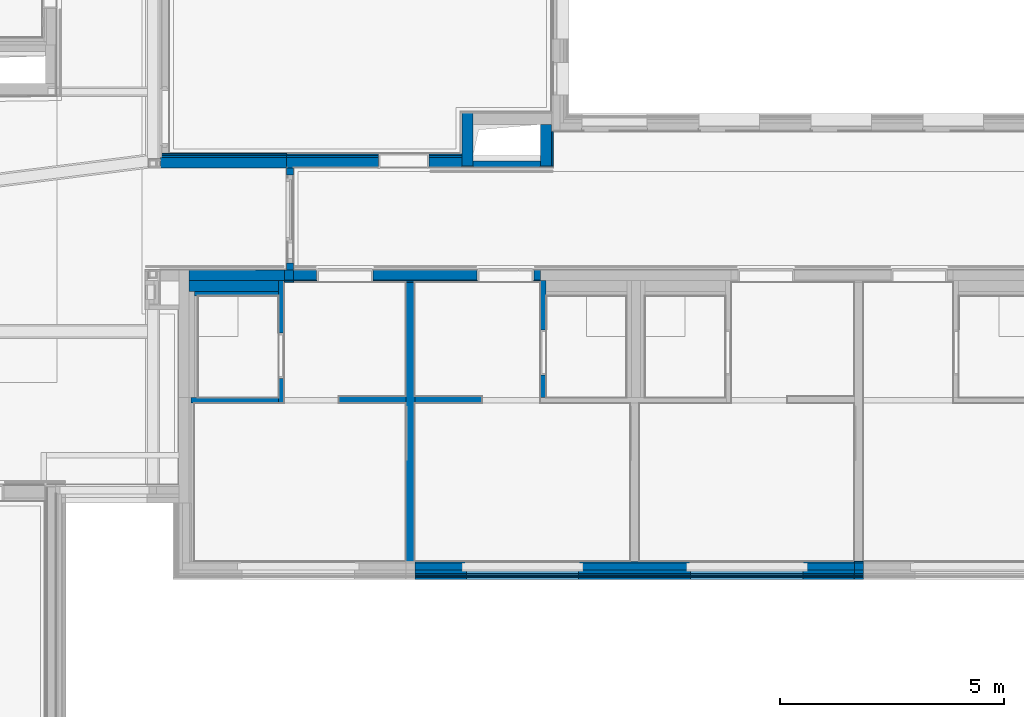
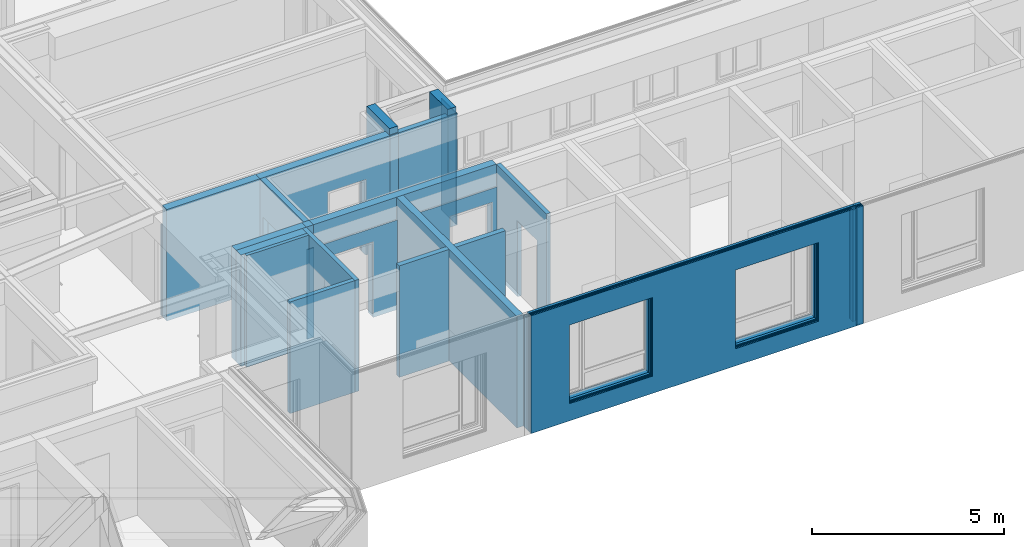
# One storey, part 42 of 222: 40 walls, 24 openings.
"""IFC4 building model written with IfcOpenShell, lengths in metres."""

from ifc_helpers import new_model, entity, si_unit, converted_unit, derived_unit, frame, frame_2d, origin, origin_with_axes, place, context, subcontext, project, spatial, polyline, rectangle, outline, extrude, clip, bounded_halfspace, material, element, save


model = new_model("IFC4")

# Units and contexts
model_context = context("Model", 3, precision=1e-05, world=origin())
body_context = subcontext(model_context, "Body", "Model", "MODEL_VIEW")
ifc_project = project(units=[si_unit("LENGTHUNIT", "METRE"), si_unit("AREAUNIT", "SQUARE_METRE"), si_unit("VOLUMEUNIT", "CUBIC_METRE"), si_unit("MASSUNIT", "GRAM", prefix="KILO"), converted_unit("PLANEANGLEUNIT", "DEGREE", entity("IfcPlaneAngleMeasure", 0.0174532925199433), si_unit("PLANEANGLEUNIT", "RADIAN"), dimensions=[0, 0, 0, 0, 0, 0, 0]), derived_unit("THERMALTRANSMITTANCEUNIT", [(si_unit("POWERUNIT", "WATT"), 1), (si_unit("THERMODYNAMICTEMPERATUREUNIT", "KELVIN"), -1), (si_unit("LENGTHUNIT", "METRE"), -2)]), derived_unit("VOLUMETRICFLOWRATEUNIT", [(si_unit("LENGTHUNIT", "METRE"), 3), (converted_unit("TIMEUNIT", "hour", entity("IfcTimeMeasure", 3600.0), si_unit("TIMEUNIT", "SECOND"), dimensions=[0, 0, 1, 0, 0, 0, 0]), -1), (si_unit("LENGTHUNIT", "METRE"), -1)])], contexts=[model_context])

# Site, building, storey
site_placement = place(None, origin())
site = spatial("IfcSite", under=ifc_project, at=site_placement, Name="Psychiatrie Neubau Wunstorf", CompositionType="ELEMENT")
building_placement = place(site_placement, origin())
building = spatial("IfcBuilding", under=site, at=building_placement, Name="Neubau H2 Stationsgebäude", CompositionType="ELEMENT")
storey_placement = place(building_placement, frame((0.0, 0.0, 3.6)))
storey = spatial("IfcBuildingStorey", under=building, at=storey_placement, Name="H2 Ebene +1", CompositionType="ELEMENT", Elevation=3.6)

# Walls
ifc_material_1 = material(Name="WA-LB")
wall_1_placement = place(storey_placement, frame((86.1, -1.16399999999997, 0.0), z_axis=(0.0, 0.0, 1.0), x_axis=(-1.0, 0.0, 0.0)))
element("IfcWall", 1, at=wall_1_placement, inside=storey, material=ifc_material_1, Name="2x Gipsfaserplatte", context=body_context, shape_type="SweptSolid", body=[
    extrude(rectangle(XDim=0.2, YDim=0.036, at=frame_2d((0.1, 0.018), x_axis=(1.0, 0.0))), origin_with_axes(), (0.0, 0.0, 1.0), 3.55),
])
ifc_material_2 = material(Name="WA-HD")
wall_2_placement = place(storey_placement, frame((86.1, -1.19999999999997, 0.0), z_axis=(0.0, 0.0, 1.0), x_axis=(-1.0, 0.0, 0.0)))
element("IfcWall", 2, at=wall_2_placement, inside=storey, material=ifc_material_2, Name="Holzständer + Zwischendämmung", context=body_context, shape_type="SweptSolid", body=[
    extrude(rectangle(XDim=0.2, YDim=0.16, at=frame_2d((0.1, 0.08), x_axis=(1.0, 0.0))), origin_with_axes(), (0.0, 0.0, 1.0), 3.55),
])
ifc_material_3 = material(Name="WA-DL")
wall_3_placement = place(storey_placement, frame((86.1, -1.35999999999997, 0.0), z_axis=(0.0, 0.0, 1.0), x_axis=(-1.0, 0.0, 0.0)))
element("IfcWall", 3, at=wall_3_placement, inside=storey, material=ifc_material_3, Name="Staffel + Zwischendämmung", context=body_context, shape_type="SweptSolid", body=[
    extrude(rectangle(XDim=0.2, YDim=0.08, at=frame_2d((0.1, 0.04), x_axis=(1.0, 0.0))), origin_with_axes(), (0.0, 0.0, 1.0), 3.75),
])
ifc_material_4 = material(Name="WA-LB")
wall_4_placement = place(storey_placement, frame((86.1, -1.43999999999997, 0.0), z_axis=(0.0, 0.0, 1.0), x_axis=(-1.0, 0.0, 0.0)))
element("IfcWall", 4, at=wall_4_placement, inside=storey, material=ifc_material_4, context=body_context, shape_type="SweptSolid", body=[
    extrude(rectangle(XDim=0.2, YDim=0.036, at=frame_2d((0.1, 0.018), x_axis=(1.0, 0.0))), origin_with_axes(), (0.0, 0.0, 1.0), 3.75),
])
ifc_material_5 = material(Name="WA-KL")
wall_5_placement = place(storey_placement, frame((86.1, -1.47599999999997, 0.0), z_axis=(0.0, 0.0, 1.0), x_axis=(-1.0, 0.0, 0.0)))
element("IfcWall", 5, at=wall_5_placement, inside=storey, material=ifc_material_5, Name="Konterlattung", context=body_context, shape_type="SweptSolid", body=[
    extrude(rectangle(XDim=0.2, YDim=0.024, at=frame_2d((0.1, 0.012), x_axis=(1.0, 0.0))), origin_with_axes(), (0.0, 0.0, 1.0), 3.75),
])
ifc_material_6 = material(Name="WA-TL")
wall_6_placement = place(storey_placement, frame((86.1, -1.49999999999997, 0.0), z_axis=(0.0, 0.0, 1.0), x_axis=(-1.0, 0.0, 0.0)))
element("IfcWall", 6, at=wall_6_placement, inside=storey, material=ifc_material_6, Name="Traglattung", context=body_context, shape_type="SweptSolid", body=[
    extrude(rectangle(XDim=0.2, YDim=0.024, at=frame_2d((0.1, 0.012), x_axis=(1.0, 0.0))), origin_with_axes(), (0.0, 0.0, 1.0), 3.75),
])
ifc_material_7 = material(Name="WA-HS")
wall_7_placement = place(storey_placement, frame((86.1, -1.52399999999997, 0.0), z_axis=(0.0, 0.0, 1.0), x_axis=(-1.0, 0.0, 0.0)))
element("IfcWall", 7, at=wall_7_placement, inside=storey, material=ifc_material_7, Name="Holzschindel", context=body_context, shape_type="SweptSolid", body=[
    extrude(rectangle(XDim=0.2, YDim=0.042, at=frame_2d((0.1, 0.021), x_axis=(1.0, 0.0))), origin_with_axes(), (0.0, 0.0, 1.0), 3.75),
])

# Wall, openings
ifc_material_8 = material(Name="WA-LB")
wall_8_placement = place(storey_placement, frame((85.9, -1.16399999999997, 0.0), z_axis=(0.0, 0.0, 1.0), x_axis=(-1.0, 7.42444654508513e-16, 0.0)))
wall_8 = element("IfcWall", 8, at=wall_8_placement, inside=storey, material=ifc_material_8, context=body_context, shape_type="SweptSolid", body=[
    extrude(rectangle(XDim=9.8, YDim=0.036, at=frame_2d((4.9, 0.018), x_axis=(1.0, 0.0))), origin_with_axes(), (0.0, 0.0, 1.0), 3.55),
])
opening_1_placement = place(wall_8_placement, frame((1.14999995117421, 0.0, 0.55), z_axis=(0.0, 1.0, 0.0), x_axis=(0.0, 0.0, 1.0)))
element("IfcOpeningElement", 9, at=opening_1_placement, cuts=wall_8, Name="Fensteröffnung", ObjectType="Opening", context=body_context, shape_type="SweptSolid", body=[
    extrude(outline(polyline([(2.5, 2.5), (2.5, 0.0), (0.0, 0.0), (0.0, 2.5), (2.5, 2.5)])), origin_with_axes(), (0.0, 0.0, 1.0), 0.036),
])
opening_2_placement = place(wall_8_placement, frame((6.14999995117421, 0.0, 0.55), z_axis=(0.0, 1.0, 0.0), x_axis=(0.0, 0.0, 1.0)))
element("IfcOpeningElement", 10, at=opening_2_placement, cuts=wall_8, Name="Fensteröffnung", ObjectType="Opening", context=body_context, shape_type="SweptSolid", body=[
    extrude(outline(polyline([(2.5, 2.5), (2.5, 0.0), (0.0, 0.0), (0.0, 2.5), (2.5, 2.5)])), origin_with_axes(), (0.0, 0.0, 1.0), 0.036),
])

ifc_material_9 = material(Name="WA-HD")
wall_9_placement = place(storey_placement, frame((85.9, -1.19999999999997, 0.0), z_axis=(0.0, 0.0, 1.0), x_axis=(-1.0, 7.42444654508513e-16, 0.0)))
wall_9 = element("IfcWall", 11, at=wall_9_placement, inside=storey, material=ifc_material_9, context=body_context, shape_type="Clipping", body=[
    clip(clip(extrude(rectangle(XDim=9.8, YDim=0.16, at=frame_2d((4.9, 0.08), x_axis=(1.0, 0.0))), origin_with_axes(), (0.0, 0.0, 1.0), 3.55), bounded_halfspace(frame((7.39999996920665, 0.0799999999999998, 0.26), z_axis=(0.0, 0.0, 1.0), x_axis=(1.0, -1.5467586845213e-17, 0.0)), True, origin_with_axes(), polyline([(6.04999995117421, 0.0), (8.74999998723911, 0.0), (8.74999998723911, 0.16), (6.04999995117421, 0.16), (6.04999995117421, 0.0)]))), bounded_halfspace(frame((2.39999996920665, 0.0800000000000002, 0.26), z_axis=(0.0, 0.0, 1.0), x_axis=(1.0, -1.54675868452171e-17, 0.0)), True, origin_with_axes(), polyline([(1.04999995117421, 0.0), (3.74999998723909, 0.0), (3.74999998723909, 0.16), (1.04999995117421, 0.16), (1.04999995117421, 0.0)]))),
])
opening_3_placement = place(wall_9_placement, frame((6.14999995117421, 0.0, 0.55), z_axis=(0.0, 1.0, 0.0), x_axis=(0.0, 0.0, 1.0)))
element("IfcOpeningElement", 12, at=opening_3_placement, cuts=wall_9, Name="Fensteröffnung", ObjectType="Opening", context=body_context, shape_type="SweptSolid", body=[
    extrude(outline(polyline([(2.5, 2.5), (2.5, 0.0), (0.0, 0.0), (0.0, 2.5), (2.5, 2.5)])), origin_with_axes(), (0.0, 0.0, 1.0), 0.16),
])
opening_4_placement = place(wall_9_placement, frame((1.14999995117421, 0.0, 0.55), z_axis=(-1.4210854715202e-15, 1.0, 0.0), x_axis=(0.0, 0.0, 1.0)))
element("IfcOpeningElement", 13, at=opening_4_placement, cuts=wall_9, Name="Fensteröffnung", ObjectType="Opening", context=body_context, shape_type="SweptSolid", body=[
    extrude(outline(polyline([(2.5, 2.5), (2.5, 0.0), (0.0, 0.0), (0.0, 2.5), (2.5, 2.5)])), origin_with_axes(), (0.0, 0.0, 1.0), 0.16),
])

ifc_material_10 = material(Name="WA-DL")
wall_10_placement = place(storey_placement, frame((85.9, -1.35999999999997, 0.0), z_axis=(0.0, 0.0, 1.0), x_axis=(-1.0, 7.42444654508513e-16, 0.0)))
wall_10 = element("IfcWall", 14, at=wall_10_placement, inside=storey, material=ifc_material_10, context=body_context, shape_type="SweptSolid", body=[
    extrude(rectangle(XDim=9.8, YDim=0.08, at=frame_2d((4.9, 0.04), x_axis=(1.0, 0.0))), origin_with_axes(), (0.0, 0.0, 1.0), 3.75),
])
opening_5_placement = place(wall_10_placement, frame((6.14999995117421, 0.0, 0.55), z_axis=(0.0, 1.0, 0.0), x_axis=(0.0, 0.0, 1.0)))
element("IfcOpeningElement", 15, at=opening_5_placement, cuts=wall_10, Name="Fensteröffnung", ObjectType="Opening", context=body_context, shape_type="SweptSolid", body=[
    extrude(outline(polyline([(2.5, 2.5), (2.5, 0.0), (0.0, 0.0), (0.0, 2.5), (2.5, 2.5)])), origin_with_axes(), (0.0, 0.0, 1.0), 0.08),
])
opening_6_placement = place(wall_10_placement, frame((1.14999995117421, 0.0, 0.55), z_axis=(0.0, 1.0, 0.0), x_axis=(0.0, 0.0, 1.0)))
element("IfcOpeningElement", 16, at=opening_6_placement, cuts=wall_10, Name="Fensteröffnung", ObjectType="Opening", context=body_context, shape_type="SweptSolid", body=[
    extrude(outline(polyline([(2.5, 2.5), (2.5, 0.0), (0.0, 0.0), (0.0, 2.5), (2.5, 2.5)])), origin_with_axes(), (0.0, 0.0, 1.0), 0.08),
])

ifc_material_11 = material(Name="WA-LB")
wall_11_placement = place(storey_placement, frame((85.9, -1.43999999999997, 0.0), z_axis=(0.0, 0.0, 1.0), x_axis=(-1.0, 7.42444654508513e-16, 0.0)))
wall_11 = element("IfcWall", 17, at=wall_11_placement, inside=storey, material=ifc_material_11, context=body_context, shape_type="SweptSolid", body=[
    extrude(rectangle(XDim=9.8, YDim=0.036, at=frame_2d((4.9, 0.018), x_axis=(1.0, 0.0))), origin_with_axes(), (0.0, 0.0, 1.0), 3.75),
])
opening_7_placement = place(wall_11_placement, frame((6.14999995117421, 0.0, 0.55), z_axis=(0.0, 1.0, 0.0), x_axis=(0.0, 0.0, 1.0)))
element("IfcOpeningElement", 18, at=opening_7_placement, cuts=wall_11, Name="Fensteröffnung", ObjectType="Opening", context=body_context, shape_type="SweptSolid", body=[
    extrude(outline(polyline([(2.5, 2.5), (2.5, 0.0), (0.0, 0.0), (0.0, 2.5), (2.5, 2.5)])), origin_with_axes(), (0.0, 0.0, 1.0), 0.036),
])
opening_8_placement = place(wall_11_placement, frame((1.14999995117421, 0.0, 0.55), z_axis=(0.0, 1.0, 0.0), x_axis=(0.0, 0.0, 1.0)))
element("IfcOpeningElement", 19, at=opening_8_placement, cuts=wall_11, Name="Fensteröffnung", ObjectType="Opening", context=body_context, shape_type="SweptSolid", body=[
    extrude(outline(polyline([(2.5, 2.5), (2.5, 0.0), (0.0, 0.0), (0.0, 2.5), (2.5, 2.5)])), origin_with_axes(), (0.0, 0.0, 1.0), 0.036),
])

ifc_material_12 = material(Name="WA-KL")
wall_12_placement = place(storey_placement, frame((85.9, -1.47599999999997, 0.0), z_axis=(0.0, 0.0, 1.0), x_axis=(-1.0, 7.42444654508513e-16, 0.0)))
wall_12 = element("IfcWall", 20, at=wall_12_placement, inside=storey, material=ifc_material_12, context=body_context, shape_type="SweptSolid", body=[
    extrude(rectangle(XDim=9.8, YDim=0.024, at=frame_2d((4.9, 0.012), x_axis=(1.0, 0.0))), origin_with_axes(), (0.0, 0.0, 1.0), 3.75),
])
opening_9_placement = place(wall_12_placement, frame((6.14999995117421, 0.0, 0.55), z_axis=(0.0, 1.0, 0.0), x_axis=(0.0, 0.0, 1.0)))
element("IfcOpeningElement", 21, at=opening_9_placement, cuts=wall_12, Name="Fensteröffnung", ObjectType="Opening", context=body_context, shape_type="SweptSolid", body=[
    extrude(outline(polyline([(2.5, 2.5), (2.5, 0.0), (0.0, 0.0), (0.0, 2.5), (2.5, 2.5)])), origin_with_axes(), (0.0, 0.0, 1.0), 0.024),
])
opening_10_placement = place(wall_12_placement, frame((1.14999995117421, 0.0, 0.55), z_axis=(0.0, 1.0, 0.0), x_axis=(0.0, 0.0, 1.0)))
element("IfcOpeningElement", 22, at=opening_10_placement, cuts=wall_12, Name="Fensteröffnung", ObjectType="Opening", context=body_context, shape_type="SweptSolid", body=[
    extrude(outline(polyline([(2.5, 2.5), (2.5, 0.0), (0.0, 0.0), (0.0, 2.5), (2.5, 2.5)])), origin_with_axes(), (0.0, 0.0, 1.0), 0.024),
])

ifc_material_13 = material(Name="WA-TL")
wall_13_placement = place(storey_placement, frame((85.9, -1.49999999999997, 0.0), z_axis=(0.0, 0.0, 1.0), x_axis=(-1.0, 7.42444654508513e-16, 0.0)))
wall_13 = element("IfcWall", 23, at=wall_13_placement, inside=storey, material=ifc_material_13, context=body_context, shape_type="SweptSolid", body=[
    extrude(rectangle(XDim=9.8, YDim=0.024, at=frame_2d((4.9, 0.012), x_axis=(1.0, 0.0))), origin_with_axes(), (0.0, 0.0, 1.0), 3.75),
])
opening_11_placement = place(wall_13_placement, frame((1.14999995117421, 0.0, 0.55), z_axis=(0.0, 1.0, 0.0), x_axis=(0.0, 0.0, 1.0)))
element("IfcOpeningElement", 24, at=opening_11_placement, cuts=wall_13, Name="Fensteröffnung", ObjectType="Opening", context=body_context, shape_type="SweptSolid", body=[
    extrude(outline(polyline([(2.5, 2.5), (2.5, 0.0), (0.0, 0.0), (0.0, 2.5), (2.5, 2.5)])), origin_with_axes(), (0.0, 0.0, 1.0), 0.024),
])
opening_12_placement = place(wall_13_placement, frame((6.14999995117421, 0.0, 0.55), z_axis=(0.0, 1.0, 0.0), x_axis=(0.0, 0.0, 1.0)))
element("IfcOpeningElement", 25, at=opening_12_placement, cuts=wall_13, Name="Fensteröffnung", ObjectType="Opening", context=body_context, shape_type="SweptSolid", body=[
    extrude(outline(polyline([(2.5, 2.5), (2.5, 0.0), (0.0, 0.0), (0.0, 2.5), (2.5, 2.5)])), origin_with_axes(), (0.0, 0.0, 1.0), 0.024),
])

ifc_material_14 = material(Name="WA-HS")
wall_14_placement = place(storey_placement, frame((85.9, -1.52399999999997, 0.0), z_axis=(0.0, 0.0, 1.0), x_axis=(-1.0, 7.42444654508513e-16, 0.0)))
wall_14 = element("IfcWall", 26, at=wall_14_placement, inside=storey, material=ifc_material_14, context=body_context, shape_type="SweptSolid", body=[
    extrude(rectangle(XDim=9.8, YDim=0.042, at=frame_2d((4.9, 0.021), x_axis=(1.0, 0.0))), origin_with_axes(), (0.0, 0.0, 1.0), 3.75),
])
opening_13_placement = place(wall_14_placement, frame((6.14999995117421, 0.0, 0.55), z_axis=(0.0, 1.0, 0.0), x_axis=(0.0, 0.0, 1.0)))
element("IfcOpeningElement", 27, at=opening_13_placement, cuts=wall_14, Name="Fensteröffnung", ObjectType="Opening", context=body_context, shape_type="SweptSolid", body=[
    extrude(outline(polyline([(2.5, 2.5), (2.5, 0.0), (0.0, 0.0), (0.0, 2.5), (2.5, 2.5)])), origin_with_axes(), (0.0, 0.0, 1.0), 0.042),
])
opening_14_placement = place(wall_14_placement, frame((1.14999995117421, 0.0, 0.55), z_axis=(0.0, 1.0, 0.0), x_axis=(0.0, 0.0, 1.0)))
element("IfcOpeningElement", 28, at=opening_14_placement, cuts=wall_14, Name="Fensteröffnung", ObjectType="Opening", context=body_context, shape_type="SweptSolid", body=[
    extrude(outline(polyline([(2.5, 2.5), (2.5, 0.0), (0.0, 0.0), (0.0, 2.5), (2.5, 2.5)])), origin_with_axes(), (0.0, 0.0, 1.0), 0.042),
])

# Wall, opening
ifc_material_15 = material(Name="WI-LB")
wall_15_placement = place(storey_placement, frame((78.9, 5.1005, 0.0), z_axis=(0.0, 0.0, 1.0), x_axis=(0.0, -1.0, 0.0)))
wall_15 = element("IfcWall", 29, at=wall_15_placement, inside=storey, material=ifc_material_15, context=body_context, shape_type="SweptSolid", body=[
    extrude(rectangle(XDim=2.61499999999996, YDim=0.125, at=frame_2d((1.30749999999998, 0.0625), x_axis=(1.0, 0.0))), origin_with_axes(), (0.0, 0.0, 1.0), 3.55),
])
opening_15_placement = place(wall_15_placement, frame((2.11499999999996, 0.125, 0.0), z_axis=(0.0, -1.0, 0.0), x_axis=(0.0, 0.0, 1.0)))
element("IfcOpeningElement", 30, at=opening_15_placement, cuts=wall_15, Name="Türöffnung", ObjectType="Opening", context=body_context, shape_type="SweptSolid", body=[
    extrude(outline(polyline([(2.41, 1.01), (2.41, 0.0), (0.0, 0.0), (0.0, 1.01), (2.41, 1.01)])), origin_with_axes(), (0.0, 0.0, 1.0), 0.125),
])

# Walls
ifc_material_16 = material(Name="WI-LB")
wall_16_placement = place(storey_placement, frame((73.0625, 2.48550000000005, 0.0), z_axis=(0.0, 0.0, 1.0), x_axis=(-1.0, -4.41953947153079e-15, 0.0)))
element("IfcWall", 31, at=wall_16_placement, inside=storey, material=ifc_material_16, context=body_context, shape_type="SweptSolid", body=[
    extrude(rectangle(XDim=1.95500000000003, YDim=0.125, at=frame_2d((0.977500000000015, 0.0625), x_axis=(1.0, 0.0))), origin_with_axes(), (0.0, 0.0, 1.0), 3.55),
])
ifc_material_17 = material(Name="WI-LB")
wall_17_placement = place(storey_placement, frame((75.9, 5.10050000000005, 0.0), z_axis=(0.0, 0.0, 1.0), x_axis=(0.0, -1.0, 0.0)))
element("IfcWall", 32, at=wall_17_placement, inside=storey, material=ifc_material_17, context=body_context, shape_type="SweptSolid", body=[
    extrude(rectangle(XDim=6.26450000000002, YDim=0.2, at=frame_2d((3.13225000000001, 0.1), x_axis=(1.0, 0.0))), origin_with_axes(), (0.0, 0.0, 1.0), 3.55),
])
ifc_material_18 = material(Name="WI-LB")
wall_18_placement = place(storey_placement, frame((73.2399999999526, 7.92950000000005, 0.0), z_axis=(0.0, 0.0, 1.0), x_axis=(-1.0, 0.0, 0.0)))
element("IfcWall", 33, at=wall_18_placement, inside=storey, material=ifc_material_18, context=body_context, shape_type="SweptSolid", body=[
    extrude(rectangle(XDim=2.81000000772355, YDim=0.04, at=frame_2d((1.40500000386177, 0.02), x_axis=(1.0, 0.0))), origin_with_axes(), (0.0, 0.0, 1.0), 2.9),
])
ifc_material_19 = material(Name="Installationsraum")
wall_19_placement = place(storey_placement, frame((73.2399999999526, 7.88950000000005, 0.0), z_axis=(0.0, 0.0, 1.0), x_axis=(-1.0, 0.0, 0.0)))
element("IfcWall", 34, at=wall_19_placement, inside=storey, material=ifc_material_19, context=body_context, shape_type="SweptSolid", body=[
    extrude(rectangle(XDim=2.81000000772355, YDim=0.05, at=frame_2d((1.40500000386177, 0.025), x_axis=(1.0, 0.0))), origin_with_axes(), (0.0, 0.0, 1.0), 2.9),
])
ifc_material_20 = material(Name="WI-HW 60")
wall_20_placement = place(storey_placement, frame((73.2399999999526, 7.83950000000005, 0.0), z_axis=(0.0, 0.0, 1.0), x_axis=(-1.0, 0.0, 0.0)))
element("IfcWall", 35, at=wall_20_placement, inside=storey, material=ifc_material_20, context=body_context, shape_type="SweptSolid", body=[
    extrude(rectangle(XDim=2.81000000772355, YDim=0.232, at=frame_2d((1.40500000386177, 0.116), x_axis=(1.0, 0.0))), origin_with_axes(), (0.0, 0.0, 1.0), 3.55),
])
ifc_material_21 = material(Name="WI-STB")
wall_21_placement = place(storey_placement, frame((77.4, 7.63750000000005, 0.0), z_axis=(0.0, 0.0, 1.0), x_axis=(0.0, 1.0, 0.0)))
element("IfcWall", 36, at=wall_21_placement, inside=storey, material=ifc_material_21, context=body_context, shape_type="Clipping", body=[
    clip(extrude(rectangle(XDim=1.1875, YDim=0.25, at=frame_2d((0.59375, 0.125), x_axis=(1.0, 0.0))), origin_with_axes(), (0.0, 0.0, 1.0), 3.75), bounded_halfspace(frame((0.124999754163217, 0.125, 0.1), z_axis=(0.0, 0.0, 1.0), x_axis=(0.0, 1.0, 0.0)), True, origin_with_axes(), polyline([(0.249999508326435, 0.0), (0.249999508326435, 0.25), (0.0, 0.25), (0.0, 0.0), (0.249999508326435, 0.0)]))),
])
ifc_material_22 = material(Name="WI-LB")
wall_22_placement = place(storey_placement, frame((75.9, 2.51050005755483, 0.0), z_axis=(0.0, 0.0, 1.0), x_axis=(-1.0, 0.0, 0.0)))
element("IfcWall", 37, at=wall_22_placement, inside=storey, material=ifc_material_22, context=body_context, shape_type="SweptSolid", body=[
    extrude(rectangle(XDim=1.5, YDim=0.15, at=frame_2d((0.75, 0.075), x_axis=(1.0, 0.0))), origin_with_axes(), (0.0, 0.0, 1.0), 3.55),
])
ifc_material_23 = material(Name="WI-LB")
wall_23_placement = place(storey_placement, frame((77.6, 2.51050000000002, 0.0), z_axis=(0.0, 0.0, 1.0), x_axis=(-1.0, 0.0, 0.0)))
element("IfcWall", 38, at=wall_23_placement, inside=storey, material=ifc_material_23, context=body_context, shape_type="SweptSolid", body=[
    extrude(rectangle(XDim=1.5, YDim=0.15, at=frame_2d((0.75, 0.075), x_axis=(1.0, 0.0))), origin_with_axes(), (0.0, 0.0, 1.0), 3.55),
])
ifc_material_24 = material(Name="WI-LB")
wall_24_placement = place(storey_placement, frame((77.15, 7.60750000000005, 0.0)))
element("IfcWall", 39, at=wall_24_placement, inside=storey, material=ifc_material_24, context=body_context, shape_type="SweptSolid", body=[
    extrude(rectangle(XDim=0.25, YDim=0.0299996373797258, at=frame_2d((0.125, 0.0149998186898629), x_axis=(1.0, 0.0))), origin_with_axes(), (0.0, 0.0, 1.0), 3.55),
])
ifc_material_25 = material(Name="WI-LB")
wall_25_placement = place(storey_placement, frame((78.9, 7.60750000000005, 0.0), z_axis=(0.0, 0.0, 1.0), x_axis=(0.999999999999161, 1.2950720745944e-06, 0.0)))
element("IfcWall", 40, at=wall_25_placement, inside=storey, material=ifc_material_25, context=body_context, shape_type="SweptSolid", body=[
    extrude(rectangle(XDim=0.279999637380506, YDim=0.0299996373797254, at=frame_2d((0.139999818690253, 0.0149998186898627), x_axis=(1.0, 0.0))), origin_with_axes(), (0.0, 0.0, 1.0), 3.55),
])
ifc_material_26 = material(Name="WI-LB")
wall_26_placement = place(storey_placement, frame((79.15, 8.41400000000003, 0.0), z_axis=(0.0, 0.0, 1.0), x_axis=(0.0, -1.0, 0.0)))
element("IfcWall", 41, at=wall_26_placement, inside=storey, material=ifc_material_26, context=body_context, shape_type="SweptSolid", body=[
    extrude(rectangle(XDim=0.776500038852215, YDim=0.0299996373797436, at=frame_2d((0.388250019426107, 0.0149998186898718), x_axis=(1.0, 0.0))), origin_with_axes(), (0.0, 0.0, 1.0), 3.55),
])

# Wall, opening
ifc_material_27 = material(Name="WI-HW 60")
wall_27_placement = place(storey_placement, frame((73.2399999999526, 7.60750000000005, 0.0), z_axis=(0.0, 0.0, 1.0), x_axis=(1.0, -2.32607340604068e-16, 0.0)))
wall_27 = element("IfcWall", 42, at=wall_27_placement, inside=storey, material=ifc_material_27, context=body_context, shape_type="SweptSolid", body=[
    extrude(rectangle(XDim=3.91000000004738, YDim=0.232, at=frame_2d((1.95500000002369, 0.116), x_axis=(1.0, 0.0))), origin_with_axes(), (0.0, 0.0, 1.0), 3.55),
])
opening_16_placement = place(wall_27_placement, frame((3.18000000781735, 0.231999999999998, 0.0), z_axis=(0.0, -1.0, 0.0), x_axis=(0.0, 0.0, 1.0)))
element("IfcOpeningElement", 43, at=opening_16_placement, cuts=wall_27, Name="Türöffnung", ObjectType="Opening", context=body_context, shape_type="SweptSolid", body=[
    extrude(outline(polyline([(2.41, 1.135), (2.41, 0.0), (0.0, 0.0), (0.0, 1.135), (2.41, 1.135)])), origin_with_axes(), (0.0, 0.0, 1.0), 0.232),
])

ifc_material_28 = material(Name="Installationsraum")
wall_28_placement = place(storey_placement, frame((73.2399999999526, 7.83950000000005, 0.0), z_axis=(0.0, 0.0, 1.0), x_axis=(1.0, -2.32607340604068e-16, 0.0)))
wall_28 = element("IfcWall", 44, at=wall_28_placement, inside=storey, material=ifc_material_28, context=body_context, shape_type="SweptSolid", body=[
    extrude(rectangle(XDim=3.91000000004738, YDim=0.0499999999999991, at=frame_2d((1.95500000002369, 0.0249999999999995), x_axis=(1.0, 0.0))), origin_with_axes(), (0.0, 0.0, 1.0), 2.9),
])
opening_17_placement = place(wall_28_placement, frame((3.18000000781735, 0.0499999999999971, 0.0), z_axis=(0.0, -1.0, 0.0), x_axis=(0.0, 0.0, 1.0)))
element("IfcOpeningElement", 45, at=opening_17_placement, cuts=wall_28, Name="Türöffnung", ObjectType="Opening", context=body_context, shape_type="SweptSolid", body=[
    extrude(outline(polyline([(2.41, 1.135), (2.41, 0.0), (0.0, 0.0), (0.0, 1.135), (2.41, 1.135)])), origin_with_axes(), (0.0, 0.0, 1.0), 0.0499999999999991),
])

ifc_material_29 = material(Name="WI-LB")
wall_29_placement = place(storey_placement, frame((73.2399999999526, 7.88950000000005, 0.0), z_axis=(0.0, 0.0, 1.0), x_axis=(1.0, -2.32607340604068e-16, 0.0)))
wall_29 = element("IfcWall", 46, at=wall_29_placement, inside=storey, material=ifc_material_29, context=body_context, shape_type="SweptSolid", body=[
    extrude(rectangle(XDim=3.91000000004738, YDim=0.0399999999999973, at=frame_2d((1.95500000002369, 0.0199999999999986), x_axis=(1.0, 0.0))), origin_with_axes(), (0.0, 0.0, 1.0), 2.9),
])
opening_18_placement = place(wall_29_placement, frame((3.18000000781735, 0.0399999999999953, 0.0), z_axis=(0.0, -1.0, 0.0), x_axis=(0.0, 0.0, 1.0)))
element("IfcOpeningElement", 47, at=opening_18_placement, cuts=wall_29, Name="Türöffnung", ObjectType="Opening", context=body_context, shape_type="SweptSolid", body=[
    extrude(outline(polyline([(2.41, 1.135), (2.41, 0.0), (0.0, 0.0), (0.0, 1.135), (2.41, 1.135)])), origin_with_axes(), (0.0, 0.0, 1.0), 0.0399999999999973),
])

# Walls
ifc_material_30 = material(Name="WI-HW 60")
wall_30_placement = place(storey_placement, frame((73.3949999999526, 5.33250000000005, 0.0), z_axis=(0.0, 0.0, 1.0), x_axis=(-1.0, 0.0, 0.0)))
element("IfcWall", 48, at=wall_30_placement, inside=storey, material=ifc_material_30, context=body_context, shape_type="SweptSolid", body=[
    extrude(rectangle(XDim=0.20749999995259, YDim=0.232, at=frame_2d((0.103749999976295, 0.116), x_axis=(1.0, 0.0))), origin_with_axes(), (0.0, 0.0, 1.0), 3.55),
])
ifc_material_31 = material(Name="WI-LB")
wall_31_placement = place(storey_placement, frame((73.3949999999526, 5.10050000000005, 0.0), z_axis=(0.0, 0.0, 1.0), x_axis=(-1.0, 0.0, 0.0)))
element("IfcWall", 49, at=wall_31_placement, inside=storey, material=ifc_material_31, context=body_context, shape_type="SweptSolid", body=[
    extrude(rectangle(XDim=0.20749999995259, YDim=0.04, at=frame_2d((0.103749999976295, 0.02), x_axis=(1.0, 0.0))), origin_with_axes(), (0.0, 0.0, 1.0), 2.85),
])

# Wall, openings
ifc_material_32 = material(Name="WI-HW 60")
wall_32_placement = place(storey_placement, frame((78.9, 5.33250000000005, 0.0), z_axis=(0.0, 0.0, 1.0), x_axis=(-1.0, 0.0, 0.0)))
wall_32 = element("IfcWall", 50, at=wall_32_placement, inside=storey, material=ifc_material_32, context=body_context, shape_type="SweptSolid", body=[
    extrude(rectangle(XDim=5.50500000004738, YDim=0.232, at=frame_2d((2.75250000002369, 0.116), x_axis=(1.0, 0.0))), origin_with_axes(), (0.0, 0.0, 1.0), 3.55),
])
opening_19_placement = place(wall_32_placement, frame((0.15, 0.0, 0.0), z_axis=(0.0, 1.0, 0.0), x_axis=(0.0, 0.0, 1.0)))
element("IfcOpeningElement", 51, at=opening_19_placement, cuts=wall_32, Name="Türöffnung", ObjectType="Opening", context=body_context, shape_type="SweptSolid", body=[
    extrude(outline(polyline([(2.41, 1.26), (2.41, 0.0), (0.0, 0.0), (0.0, 1.26), (2.41, 1.26)])), origin_with_axes(), (0.0, 0.0, 1.0), 0.232),
])
opening_20_placement = place(wall_32_placement, frame((3.73, 0.0, 0.0), z_axis=(0.0, 1.0, 0.0), x_axis=(0.0, 0.0, 1.0)))
element("IfcOpeningElement", 52, at=opening_20_placement, cuts=wall_32, Name="Türöffnung", ObjectType="Opening", context=body_context, shape_type="SweptSolid", body=[
    extrude(outline(polyline([(2.41, 1.26), (2.41, 0.0), (0.0, 0.0), (0.0, 1.26), (2.41, 1.26)])), origin_with_axes(), (0.0, 0.0, 1.0), 0.232),
])

ifc_material_33 = material(Name="WI-LB")
wall_33_placement = place(storey_placement, frame((78.9, 5.10050000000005, 0.0), z_axis=(0.0, 0.0, 1.0), x_axis=(-1.0, 0.0, 0.0)))
wall_33 = element("IfcWall", 53, at=wall_33_placement, inside=storey, material=ifc_material_33, context=body_context, shape_type="SweptSolid", body=[
    extrude(rectangle(XDim=5.50500000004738, YDim=0.04, at=frame_2d((2.75250000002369, 0.02), x_axis=(1.0, 0.0))), origin_with_axes(), (0.0, 0.0, 1.0), 2.85),
])
opening_21_placement = place(wall_33_placement, frame((0.15, 0.0, 0.0), z_axis=(0.0, 1.0, 0.0), x_axis=(0.0, 0.0, 1.0)))
element("IfcOpeningElement", 54, at=opening_21_placement, cuts=wall_33, Name="Türöffnung", ObjectType="Opening", context=body_context, shape_type="SweptSolid", body=[
    extrude(outline(polyline([(2.41, 1.26), (2.41, 0.0), (0.0, 0.0), (0.0, 1.26), (2.41, 1.26)])), origin_with_axes(), (0.0, 0.0, 1.0), 0.04),
])
opening_22_placement = place(wall_33_placement, frame((3.73, 0.0, 0.0), z_axis=(0.0, 1.0, 0.0), x_axis=(0.0, 0.0, 1.0)))
element("IfcOpeningElement", 55, at=opening_22_placement, cuts=wall_33, Name="Türöffnung", ObjectType="Opening", context=body_context, shape_type="SweptSolid", body=[
    extrude(outline(polyline([(2.41, 1.26), (2.41, 0.0), (0.0, 0.0), (0.0, 1.26), (2.41, 1.26)])), origin_with_axes(), (0.0, 0.0, 1.0), 0.04),
])

# Wall
ifc_material_34 = material(Name="WI-HW 60")
wall_34_placement = place(storey_placement, frame((73.1875, 5.3325, 0.0), z_axis=(0.0, 0.0, 1.0), x_axis=(-1.0, 0.0, 0.0)))
element("IfcWall", 56, at=wall_34_placement, inside=storey, material=ifc_material_34, context=body_context, shape_type="SweptSolid", body=[
    extrude(rectangle(XDim=2.12, YDim=0.232, at=frame_2d((1.06, 0.116), x_axis=(1.0, 0.0))), origin_with_axes(), (0.0, 0.0, 1.0), 3.55),
])

# Wall, opening
ifc_material_35 = material(Name="WI-LB")
wall_35_placement = place(storey_placement, frame((73.1875, 2.36050000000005, 0.0), z_axis=(0.0, 0.0, 1.0), x_axis=(0.0, 1.0, 0.0)))
wall_35 = element("IfcWall", 57, at=wall_35_placement, inside=storey, material=ifc_material_35, context=body_context, shape_type="SweptSolid", body=[
    extrude(rectangle(XDim=2.73999999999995, YDim=0.125, at=frame_2d((1.36999999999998, 0.0625), x_axis=(1.0, 0.0))), origin_with_axes(), (0.0, 0.0, 1.0), 3.55),
])
opening_23_placement = place(wall_35_placement, frame((1.55999999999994, 0.125, 0.0), z_axis=(0.0, -1.0, 0.0), x_axis=(0.0, 0.0, 1.0)))
element("IfcOpeningElement", 58, at=opening_23_placement, cuts=wall_35, Name="Türöffnung", ObjectType="Opening", context=body_context, shape_type="SweptSolid", body=[
    extrude(outline(polyline([(2.41, 1.01), (2.41, 0.0), (0.0, 0.0), (0.0, 1.01), (2.41, 1.01)])), origin_with_axes(), (0.0, 0.0, 1.0), 0.125),
])

# Walls
ifc_material_36 = material(Name="Installationsraum")
wall_36_placement = place(storey_placement, frame((73.0625, 5.1005, 0.0), z_axis=(0.0, 0.0, 1.0), x_axis=(-1.0, 0.0, 0.0)))
element("IfcWall", 59, at=wall_36_placement, inside=storey, material=ifc_material_36, context=body_context, shape_type="SweptSolid", body=[
    extrude(rectangle(XDim=1.99500000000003, YDim=0.25, at=frame_2d((0.997500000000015, 0.125), x_axis=(1.0, 0.0))), origin_with_axes(), (0.0, 0.0, 1.0), 3.55),
])
ifc_material_37 = material(Name="WI-VS")
wall_37_placement = place(storey_placement, frame((73.0625, 4.8505, 0.0), z_axis=(0.0, 0.0, 1.0), x_axis=(-1.0, 0.0, 0.0)))
element("IfcWall", 60, at=wall_37_placement, inside=storey, material=ifc_material_37, context=body_context, shape_type="SweptSolid", body=[
    extrude(rectangle(XDim=1.88000000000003, YDim=0.1, at=frame_2d((0.940000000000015, 0.05), x_axis=(1.0, 0.0))), origin_with_axes(), (0.0, 0.0, 1.0), 3.55),
])
ifc_material_38 = material(Name="WI-LB")
wall_38_placement = place(storey_placement, frame((78.9, 7.75750000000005, 0.0), z_axis=(0.0, 0.0, 1.0), x_axis=(-1.0, 0.0, 0.0)))
element("IfcWall", 61, at=wall_38_placement, inside=storey, material=ifc_material_38, context=body_context, shape_type="Clipping", body=[
    clip(extrude(rectangle(XDim=1.5, YDim=0.15, at=frame_2d((0.75, 0.075), x_axis=(1.0, 0.0))), origin_with_axes(), (0.0, 0.0, 1.0), 3.55), bounded_halfspace(frame((0.75, 0.0600002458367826, 0.1), z_axis=(0.0, 0.0, 1.0), x_axis=(1.0, 0.0, 0.0)), True, origin_with_axes(), polyline([(0.0, 0.0), (1.5, 0.0), (1.5, 0.120000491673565), (0.0, 0.120000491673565), (0.0, 0.0)]))),
])
ifc_material_39 = material(Name="WI-STB")
wall_39_placement = place(storey_placement, frame((79.15, 7.63750000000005, 0.0), z_axis=(0.0, 0.0, 1.0), x_axis=(0.0, 1.0, 0.0)))
element("IfcWall", 62, at=wall_39_placement, inside=storey, material=ifc_material_39, context=body_context, shape_type="Clipping", body=[
    clip(extrude(rectangle(XDim=0.9375, YDim=0.25, at=frame_2d((0.46875, 0.125), x_axis=(1.0, 0.0))), origin_with_axes(), (0.0, 0.0, 1.0), 3.75), bounded_halfspace(frame((0.124999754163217, 0.125, 0.1), z_axis=(0.0, 0.0, 1.0), x_axis=(0.0, 1.0, 0.0)), True, origin_with_axes(), polyline([(0.249999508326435, 0.0), (0.249999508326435, 0.25), (0.0, 0.25), (0.0, 0.0), (0.249999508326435, 0.0)]))),
])

# Wall, opening
ifc_material_40 = material(Name="WI-LB")
wall_40_placement = place(storey_placement, frame((73.3949999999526, 5.33250000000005, 0.0), z_axis=(0.0, 0.0, 1.0), x_axis=(0.0, 1.0, 0.0)))
wall_40 = element("IfcWall", 63, at=wall_40_placement, inside=storey, material=ifc_material_40, context=body_context, shape_type="SweptSolid", body=[
    extrude(rectangle(XDim=2.275, YDim=0.155, at=frame_2d((1.1375, 0.0775), x_axis=(1.0, 0.0))), origin_with_axes(), (0.0, 0.0, 1.0), 3.55),
])
opening_24_placement = place(wall_40_placement, frame((0.154999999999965, 0.0, 0.0), z_axis=(0.0, 1.0, 0.0), x_axis=(0.0, 0.0, 1.0)))
element("IfcOpeningElement", 64, at=opening_24_placement, cuts=wall_40, Name="Türöffnung", ObjectType="Opening", context=body_context, shape_type="SweptSolid", body=[
    extrude(outline(polyline([(2.41, 1.965), (2.41, 0.0), (0.0, 0.0), (0.0, 1.965), (2.41, 1.965)])), origin_with_axes(), (0.0, 0.0, 1.0), 0.155),
])

save(model, "model.ifc")
